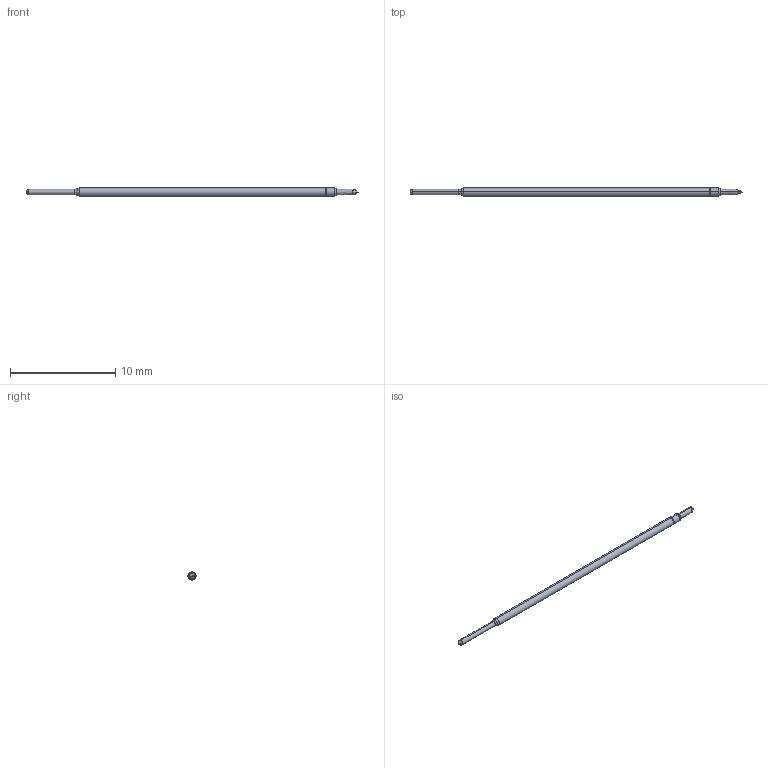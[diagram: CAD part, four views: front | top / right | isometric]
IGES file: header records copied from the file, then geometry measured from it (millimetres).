
Start section: SolidWorks IGES file using analytic representation for surfaces
Global section: file name: C:\Documents and Settings\mrumschlag\Desktop\changes\new\test\I8 FULL.IGS; native system: SolidWorks 2011; preprocessor: SolidWorks 2011; author: mrumschlag; date: 110630.142735; units: inch
Bounding box: 31.58 x 0.76 x 0.76 mm (x, y, z)
Surface area: 70.2 mm2 (no closed solid volume)
Topology: 0 solids, 0 shells, 31 faces, 178 edges, 176 vertices
Faces by surface type: bspline 17, revolution 14
